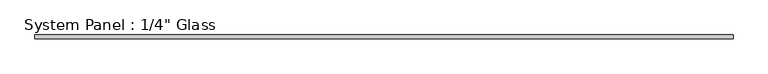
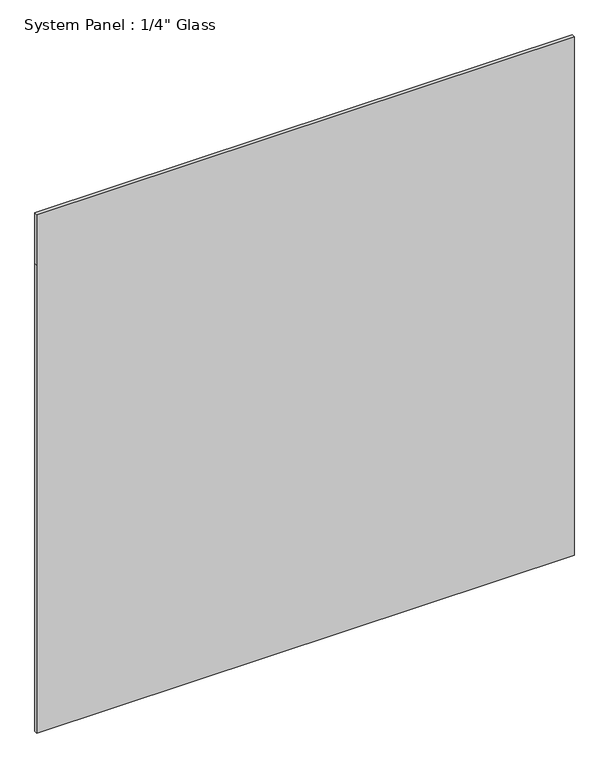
"""IFC4 building model written with IfcOpenShell, lengths in millimetres: plate geometry."""

from ifc_helpers import new_model, si_unit, frame, origin, place, context, project, spatial, polyline, outline, extrude, source, transform, mapped, element, save


def plate_a72b84bc(model_context):
    return source(origin(), model_context, "Body", "SweptSolid", [
        extrude(outline(polyline([(0.0, -606.4258852), (0.0, 606.4258852), (1116.4405973, 606.4258852), (1237.0923678, 606.4258852), (1237.0923678, -606.4258852), (1116.4405973, -606.4258852), (0.0, -606.4258852)])), frame((0.0, -3.175, 0.0), z_axis=(0.0, 1.0, 0.0), x_axis=(0.0, 0.0, 1.0)), (0.0, 0.0, 1.0), 6.35),
    ])


if __name__ == "__main__":
    model = new_model("IFC4")
    model_context = context("Model", 3, world=origin())
    ifc_project = project(units=[si_unit("LENGTHUNIT", "METRE", prefix="MILLI")], contexts=[model_context])
    site = spatial("IfcSite", under=ifc_project)
    building = spatial("IfcBuilding", under=site)
    placement = place(None, origin())
    plate_shape = plate_a72b84bc(model_context)
    element("IfcPlate", 1, ObjectType="System Panel : 1/4\" Glass", at=placement, inside=building, context=model_context, shape_type="MappedRepresentation", body=[
        mapped(plate_shape, transform((0.0, 0.0, 0.0), x_axis=(1.0, 0.0, 0.0), y_axis=(0.0, 1.0, 0.0), z_axis=(0.0, 0.0, 1.0))),
    ])
    save(model, "model.ifc")
